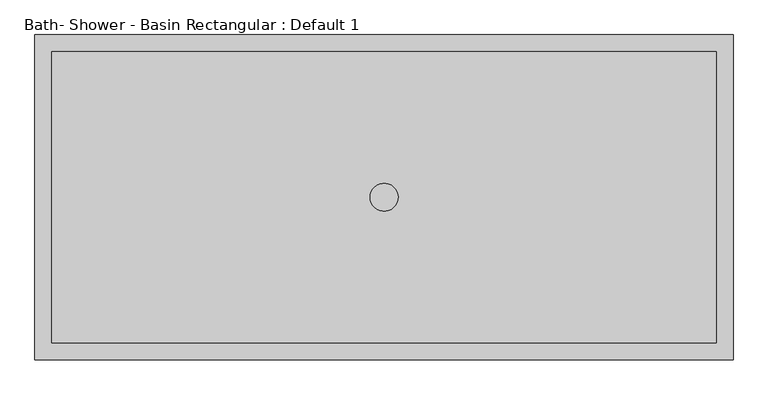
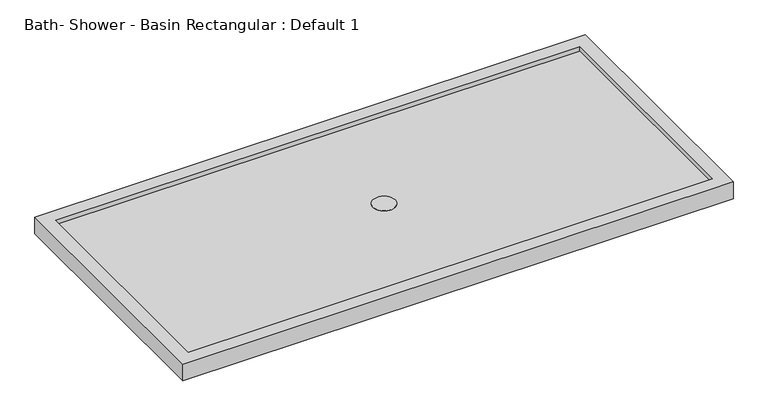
"""IFC4 building model written with IfcOpenShell, lengths in millimetres: flow terminal geometry, Bath- Shower - Basin Rectangular : Default 1."""

from ifc_helpers import new_model, si_unit, point, frame_2d, origin, origin_with_axes, place, context, project, spatial, circle_curve, trimmed, segment, composite_curve, outline, extrude, faceted_brep, source, transform, mapped, element, save


def bath_shower_basin_rectangular_default_1_3c0a1b38(model_context):
    return source(origin(), model_context, "Body", "SolidModel", [
        extrude(outline(composite_curve([segment(trimmed(circle_curve(frame_2d((0.1, 0.15)), 31.75), [point((-31.65, 0.15))], [point((31.85, 0.15))], False, "CARTESIAN"), True, "CONTINUOUS"), segment(trimmed(circle_curve(frame_2d((0.1, 0.15)), 31.75), [point((31.85, 0.15))], [point((-31.65, 0.15))], False, "CARTESIAN"), True, "CONTINUOUS")], self_intersect=False)), origin_with_axes(), (0.0, 0.0, 1.0), 38.1),
        faceted_brep([(790.575, 368.3, 50.8), (-790.575, 368.3, 50.8), (-790.575, -368.3, 50.8), (790.575, -368.3, 50.8), (-752.475, 330.2, 50.8), (752.475, 330.2, 50.8), (752.475, -330.2, 50.8), (-752.475, -330.2, 50.8), (790.575, 368.3, 0.0), (790.575, -368.3, 0.0), (-790.575, -368.3, 0.0), (-790.575, 368.3, 0.0), (752.475, 330.2, 38.1), (-752.475, 330.2, 38.1), (-752.475, -330.2, 38.1), (752.475, -330.2, 38.1)], [[[0, 1, 2, 3], [4, 5, 6, 7]], [[8, 9, 10, 11]], [[1, 0, 8, 11]], [[2, 1, 11, 10]], [[3, 2, 10, 9]], [[0, 3, 9, 8]], [[12, 13, 14, 15]], [[13, 12, 5, 4]], [[14, 13, 4, 7]], [[15, 14, 7, 6]], [[12, 15, 6, 5]]]),
    ])


if __name__ == "__main__":
    model = new_model("IFC4")
    model_context = context("Model", 3, world=origin())
    ifc_project = project(units=[si_unit("LENGTHUNIT", "METRE", prefix="MILLI")], contexts=[model_context])
    site = spatial("IfcSite", under=ifc_project)
    building = spatial("IfcBuilding", under=site)
    placement = place(None, origin())
    bath_shower_basin_rectangular_default_1_shape = bath_shower_basin_rectangular_default_1_3c0a1b38(model_context)
    element("IfcFlowTerminal", 1, ObjectType="Bath- Shower - Basin Rectangular : Default 1", at=placement, inside=building, context=model_context, shape_type="MappedRepresentation", body=[
        mapped(bath_shower_basin_rectangular_default_1_shape, transform((0.0, 0.0, 0.0), x_axis=(1.0, 0.0, 0.0), y_axis=(0.0, 1.0, 0.0), z_axis=(0.0, 0.0, 1.0))),
    ])
    save(model, "model.ifc")
